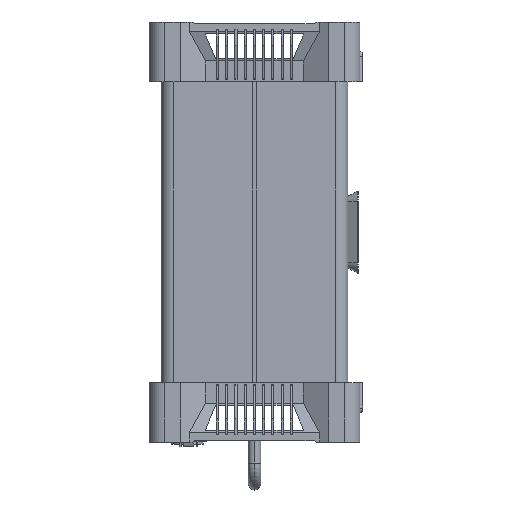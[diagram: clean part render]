
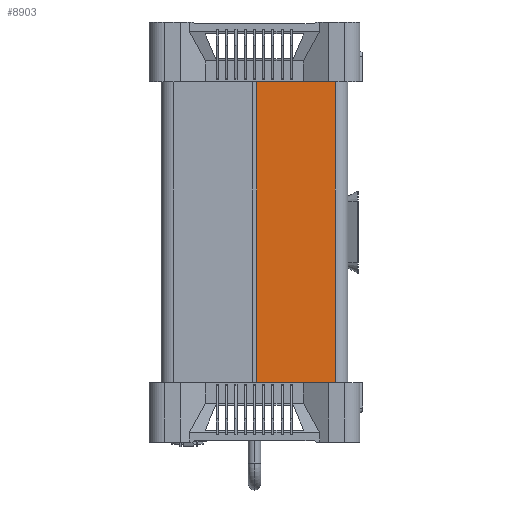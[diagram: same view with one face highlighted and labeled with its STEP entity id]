
A CAD part, left-side view. The second image highlights one B-rep face of the part: STEP entity #8903.
In plain terms, the highlighted planar face has unit normal (-1, 0, 0).
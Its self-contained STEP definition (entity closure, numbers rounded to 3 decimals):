
#1278 = PLANE ( 'NONE',  #25496 ) ;
#2706 = CARTESIAN_POINT ( 'NONE',  ( -102., -2., 145. ) ) ;
#6291 = VERTEX_POINT ( 'NONE', #8416 ) ;
#6417 = DIRECTION ( 'NONE',  ( 0., -1., 0. ) ) ;
#6966 = EDGE_LOOP ( 'NONE', ( #24635, #14404, #27132, #14053 ) ) ;
#7013 = LINE ( 'NONE', #26424, #9443 ) ;
#7174 = CARTESIAN_POINT ( 'NONE',  ( -102., -2., 0. ) ) ;
#7811 = DIRECTION ( 'NONE',  ( 0., 0., -1. ) ) ;
#8416 = CARTESIAN_POINT ( 'NONE',  ( -102., -78., 145. ) ) ;
#8903 = ADVANCED_FACE ( 'NONE', ( #25615 ), #1278, .F. ) ;
#9260 = DIRECTION ( 'NONE',  ( 0., 0., 1. ) ) ;
#9443 = VECTOR ( 'NONE', #7811, 1000. ) ;
#10399 = VERTEX_POINT ( 'NONE', #24336 ) ;
#12081 = EDGE_CURVE ( 'NONE', #26718, #10399, #7013, .T. ) ;
#12884 = CARTESIAN_POINT ( 'NONE',  ( -102., -78., 0. ) ) ;
#14053 = ORIENTED_EDGE ( 'NONE', *, *, #12081, .T. ) ;
#14404 = ORIENTED_EDGE ( 'NONE', *, *, #14606, .F. ) ;
#14606 = EDGE_CURVE ( 'NONE', #6291, #18537, #21335, .T. ) ;
#15403 = LINE ( 'NONE', #17338, #22747 ) ;
#17338 = CARTESIAN_POINT ( 'NONE',  ( -102., -2., -145. ) ) ;
#17643 = VECTOR ( 'NONE', #23308, 1000. ) ;
#17881 = VECTOR ( 'NONE', #6417, 1000. ) ;
#18537 = VERTEX_POINT ( 'NONE', #21379 ) ;
#21033 = CARTESIAN_POINT ( 'NONE',  ( -102., -2., 145. ) ) ;
#21335 = LINE ( 'NONE', #12884, #17643 ) ;
#21379 = CARTESIAN_POINT ( 'NONE',  ( -102., -78., -145. ) ) ;
#21808 = DIRECTION ( 'NONE',  ( 1., 0., 0. ) ) ;
#22747 = VECTOR ( 'NONE', #26350, 1000. ) ;
#23308 = DIRECTION ( 'NONE',  ( 0., 0., -1. ) ) ;
#23921 = EDGE_CURVE ( 'NONE', #26718, #6291, #26120, .T. ) ;
#24336 = CARTESIAN_POINT ( 'NONE',  ( -102., -2., -145. ) ) ;
#24538 = EDGE_CURVE ( 'NONE', #10399, #18537, #15403, .T. ) ;
#24635 = ORIENTED_EDGE ( 'NONE', *, *, #24538, .T. ) ;
#25496 = AXIS2_PLACEMENT_3D ( 'NONE', #7174, #21808, #9260 ) ;
#25615 = FACE_OUTER_BOUND ( 'NONE', #6966, .T. ) ;
#26120 = LINE ( 'NONE', #21033, #17881 ) ;
#26350 = DIRECTION ( 'NONE',  ( 0., -1., 0. ) ) ;
#26424 = CARTESIAN_POINT ( 'NONE',  ( -102., -2., 0. ) ) ;
#26718 = VERTEX_POINT ( 'NONE', #2706 ) ;
#27132 = ORIENTED_EDGE ( 'NONE', *, *, #23921, .F. ) ;
